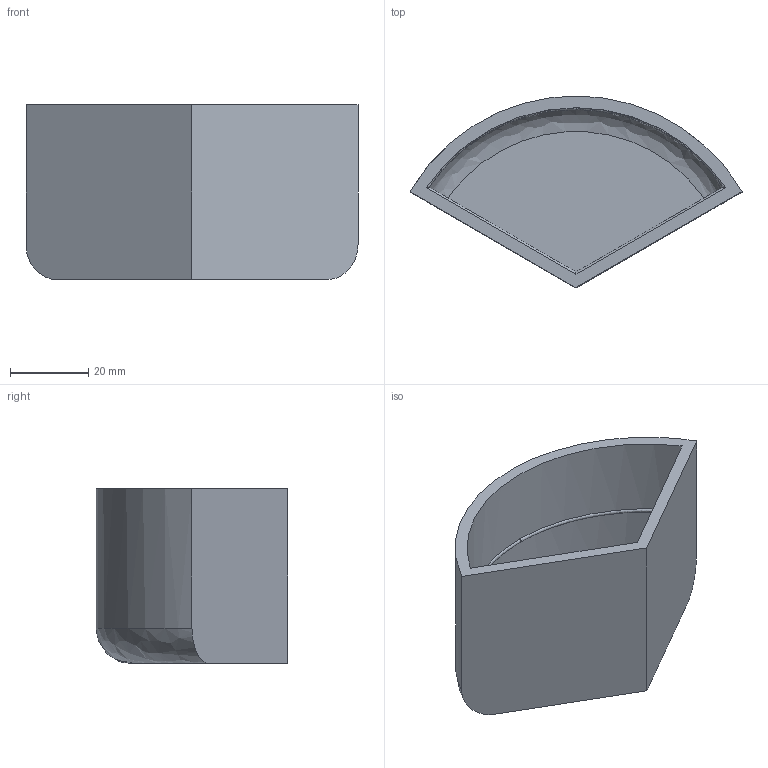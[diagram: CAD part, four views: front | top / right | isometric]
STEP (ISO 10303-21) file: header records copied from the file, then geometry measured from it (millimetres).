
FILE_DESCRIPTION(/* description */ (''),/* implementation_level */ '2;1');
FILE_NAME(/* name */ 'No Handle - 1-3 Cup',/* time_stamp */ '2020-01-31T12:03:47-08:00',/* author */ (''),/* organization */ (''),/* preprocessor_version */ 'ST-DEVELOPER v16.5',/* originating_system */ '',/* authorisation */ '');
FILE_SCHEMA (('AUTOMOTIVE_DESIGN'));
Length unit declared in the file: centimetre
Products named in the file (1): Document
Bounding box: 84.87 x 49 x 44.73 mm (x, y, z)
Volume: 30506.1 mm3; surface area: 20844.2 mm2
Topology: 1 solids, 1 shells, 18 faces, 39 edges, 24 vertices
Faces by surface type: plane 9, bspline 9
Entity records: 976 total; most frequent: CARTESIAN_POINT 701, ORIENTED_EDGE 78, EDGE_CURVE 39, B_SPLINE_CURVE_WITH_KNOTS 26, VERTEX_POINT 24, EDGE_LOOP 19, ADVANCED_FACE 18, FACE_OUTER_BOUND 18
